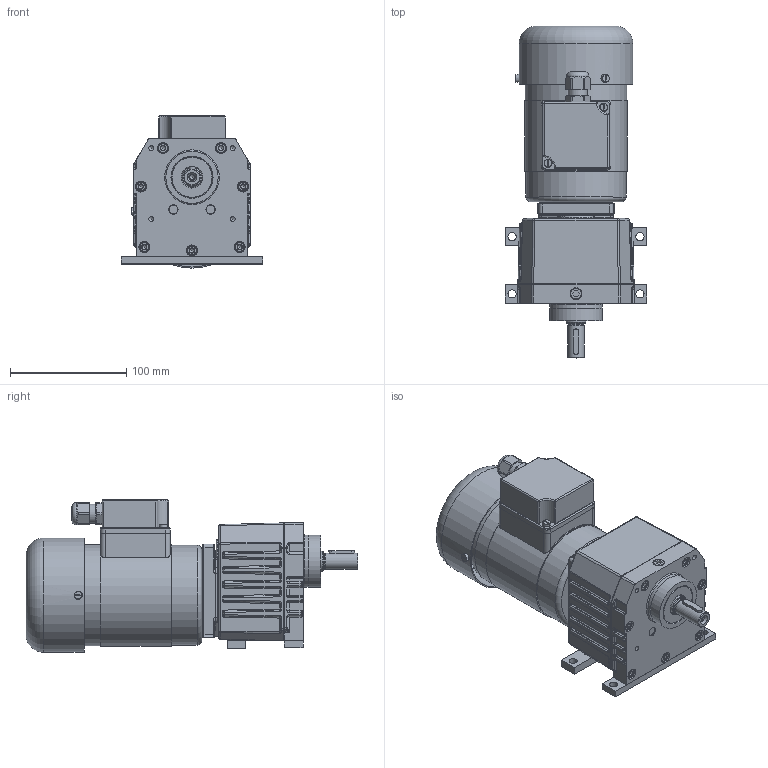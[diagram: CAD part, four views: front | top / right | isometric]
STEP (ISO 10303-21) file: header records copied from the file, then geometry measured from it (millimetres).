
FILE_DESCRIPTION(/* description */ (''),/* implementation_level */ '2;1');
FILE_NAME(/* name */ 'H:/CAD/CAD_Fusion360/Modelle_2D_3D/stp -Dateiformat/Reihe_G2/G239-G269/Motor 0,03 kW/G239_G269-03-4_B3_B3B14_KK_C.step',/* time_stamp */ '2022-02-04T14:05:06+01:00',/* author */ (''),/* organization */ (''),/* preprocessor_version */ 'ST-DEVELOPER v18.1',/* originating_system */ 'Autodesk Translation Framework v10.13.0.1454',/* authorisation */ '');
FILE_SCHEMA (('AUTOMOTIVE_DESIGN { 1 0 10303 214 3 1 1 }'));
Length unit declared in the file: millimetre
Products named in the file (47): G239_G269-03-4_B3_B3B14_KK_C; BG_G239_G269_B14_Grundteile; 1200053010_09_Gehaeuse_B14_B5_239_269; 1210053120_00; 1931200005 OR6-1 Rundschnurring; 1200053300_00; 1932014504 M5x12 DIN965 Senkkopfschraube; 1200053280_02; 1932010012 M5x12 DIN912 Zylinderschraube; 1933210008 35x1,5 DIN472 Sicherungsring; 1210053030_00_Abtriebswelle_239_269; 1933200010 A17x1 DIN471 Sicherungsring; 1933200003 A10x1 DIN471 Sicherungsring; 1935400041 PS17x24x1 DIN988 Passscheibe; 1930040004 6003 2RS DIN625 Rillenkugellager; _HPC - S6003-2RS_PART1; _HPC - S6003-2RS_PART2; _HPC - S6003-2RS_PART3; _HPC - S6003-2RS_PART4; _HPC - S6003-2RS_PART5; 1930040002 6000 2RS DIN625 Rillenkugellager; _HPC - S6000-2RS_PART1; _HPC - S6000-2RS_PART2; _HPC - S6000-2RS_PART3; _HPC - S6000-2RS_PART4; _HPC - S6000-2RS_PART5; 1932500029 A5x5x22 DIN6885 Passfeder; 1931000033 RDR17x35x7 DIN3760 Radialdichtring; 1932010013 M5x16 DIN912 Zylinderschraube; 1933100006 A5,3 DIN6797 Zahnscheibe; 1932007003 M10x1 DIN906 Verschlussschraube; 1931200040 OR54-1,5 Rundschnurring; BG_G239_G269_B3_Baugruppe; 1220053060_02; 1932014506 M6x12 DIN965 Senkkopfschraaube; 1932010002; 1200053210_01; BG_1222011020_G2_Motoranbau_0,03kW Kopieren; 1220013130_02; 1931000017 RDR12x25x5 DIN3760 Radialdichtring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
Assembly tree (88 placements, depth 4):
  G239_G269-03-4_B3_B3B14_KK_C
    BG_G239_G269_B14_Grundteile
      1200053010_09_Gehaeuse_B14_B5_239_269
      1210053120_00  x2
      1931200005 OR6-1 Rundschnurring  x2
      1200053300_00
      1932014504 M5x12 DIN965 Senkkopfschraube
      1200053280_02
      1932010012 M5x12 DIN912 Zylinderschraube  x2
      1933210008 35x1,5 DIN472 Sicherungsring  x2
      1210053030_00_Abtriebswelle_239_269
      1933200010 A17x1 DIN471 Sicherungsring
      1933200003 A10x1 DIN471 Sicherungsring
      1935400041 PS17x24x1 DIN988 Passscheibe
      1930040004 6003 2RS DIN625 Rillenkugellager
        _HPC - S6003-2RS_PART1
        _HPC - S6003-2RS_PART2
        _HPC - S6003-2RS_PART3
        _HPC - S6003-2RS_PART4
        _HPC - S6003-2RS_PART5  x8
      1930040002 6000 2RS DIN625 Rillenkugellager
        _HPC - S6000-2RS_PART1
        _HPC - S6000-2RS_PART2
        _HPC - S6000-2RS_PART3
        _HPC - S6000-2RS_PART4
        _HPC - S6000-2RS_PART5  x8
      1932500029 A5x5x22 DIN6885 Passfeder
      1931000033 RDR17x35x7 DIN3760 Radialdichtring
      1932010013 M5x16 DIN912 Zylinderschraube  x7
      1933100006 A5,3 DIN6797 Zahnscheibe  x7
      1932007003 M10x1 DIN906 Verschlussschraube
      1931200040 OR54-1,5 Rundschnurring
    BG_G239_G269_B3_Baugruppe
      1220053060_02
      1932014506 M6x12 DIN965 Senkkopfschraaube  x2
      1932010002  x2
      1200053210_01
    BG_1222011020_G2_Motoranbau_0,03kW Kopieren
      1220013130_02
      1931000017 RDR12x25x5 DIN3760 Radialdichtring
      1220013150_02_Kupplungshülse_G2_Motor
      1931300005 Al4x8 DIN7603 Dichtscheibe  x4
      1932010004 M4x16 DIN912 Zylinderschraube  x4
    BG_1222013060_G2_Motor_0,03kW_KK_C
      1220013060_G2_Motor_0,02_0,03kW_Dummy
        1932001015  x5
        Kabelverschraubung
Bounding box: 122 x 285.4 x 131 mm (x, y, z)
Volume: 1270759.8 mm3; surface area: 298427.3 mm2
Topology: 86 solids, 91 shells, 2938 faces, 7196 edges, 4418 vertices
Faces by surface type: plane 1141, cylinder 1078, cone 203, bspline 200, torus 199, sphere 117
Full cylindrical faces by diameter (mm): 0.314 x5, 1.25 x1, 1.5 x2, 1.7 x2, 2.5 x4, 3.332 x6, 3.5 x8, 3.571 x5, 3.961 x10, 4 x11, 4.17 x1, 4.2 x19, 4.234 x7, 4.5 x6, 4.701 x16, 5 x22, 5.035 x2, 5.3 x15, 5.5 x10, 6 x14, 6.5 x2, 6.6 x2, 7 x14, 7.9 x6, 8 x17, 8.5 x9, 9 x2, 9.5 x7, 9.6 x2, 10 x5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
Entity records: 90690 total; most frequent: CARTESIAN_POINT 37189, DIRECTION 11205, ORIENTED_EDGE 10482, EDGE_CURVE 5241, AXIS2_PLACEMENT_3D 4374, VERTEX_POINT 3248, EDGE_LOOP 2517, LINE 2457
